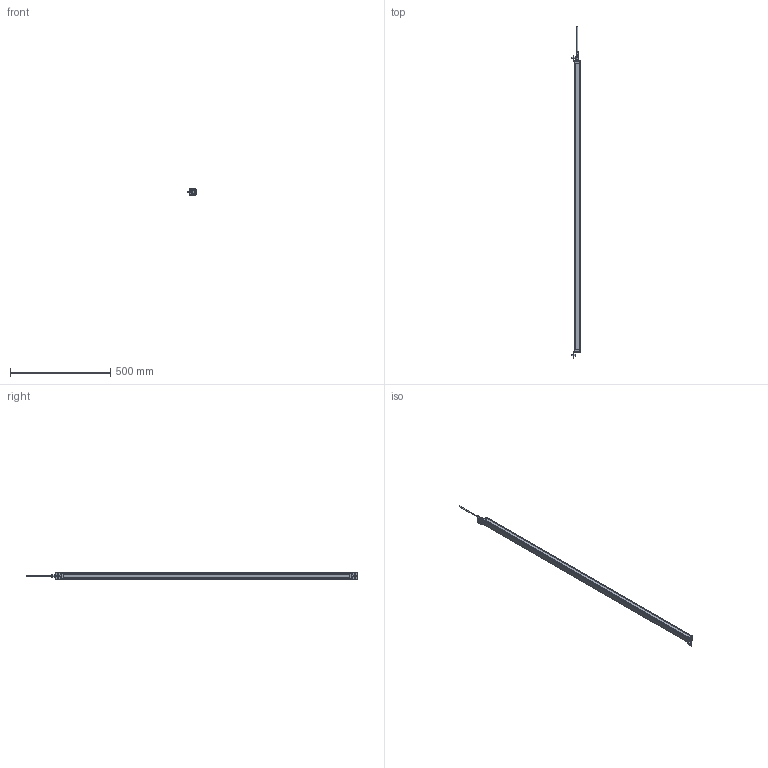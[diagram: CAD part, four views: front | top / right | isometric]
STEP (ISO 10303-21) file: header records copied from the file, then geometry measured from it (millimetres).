
FILE_DESCRIPTION(/* description */ (''),/* implementation_level */ '2;1');
FILE_NAME(/* name */ 'QE72-20-1420_stp.stp',/* time_stamp */ '2023-07-18T20:39:08+08:00',/* author */ (''),/* organization */ (''),/* preprocessor_version */ 'ST-DEVELOPER v14',/* originating_system */ 'SIEMENS PLM Software NX 8.0',/* authorisation */ '');
FILE_SCHEMA (('CONFIG_CONTROL_DESIGN'));
Products named in the file (1): QE50-20-980_stp
Bounding box: 44.2 x 1658.8 x 30 mm (x, y, z)
Volume: 1175587 mm3; surface area: 251716.3 mm2
Topology: 25 solids, 25 shells, 619 faces, 1571 edges, 1037 vertices
Faces by surface type: plane 335, cylinder 196, bspline 57, cone 22, sphere 5, torus 4
Full cylindrical faces by diameter (mm): 0.7 x2, 1 x5, 2 x5, 2.2 x8, 3.6 x8, 4 x4, 5.5 x12, 6 x2, 7 x2, 8 x1, 9.04 x1, 9.1 x1, 10 x3, 10.8 x1, 11 x2, 11.85 x1, 11.9 x1, 14.5 x1, 15 x2, 15.2 x2
Entity records: 41701 total; most frequent: CARTESIAN_POINT 27535, ORIENTED_EDGE 2832, DIRECTION 2774, EDGE_CURVE 1416, AXIS2_PLACEMENT_3D 1007, VERTEX_POINT 983, EDGE_LOOP 813, LINE 760
